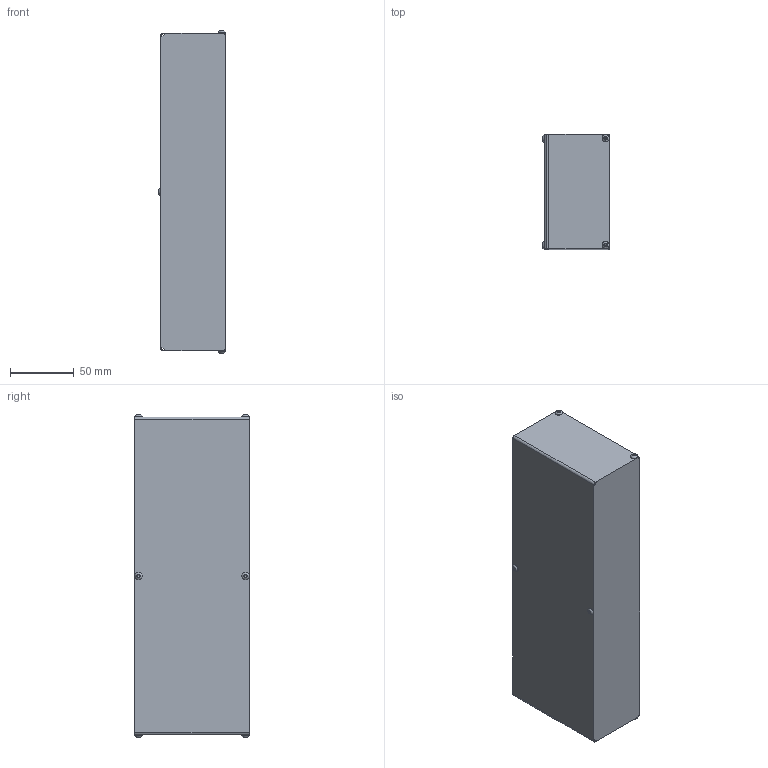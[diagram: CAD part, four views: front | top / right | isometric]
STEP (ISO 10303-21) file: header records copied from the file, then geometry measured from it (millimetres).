
FILE_DESCRIPTION(/* description */ (''),/* implementation_level */ '2;1');
FILE_NAME(/* name */ 'X:\VIRI ZA WEB\CAD DATOTEKE\LINEARNE ENOTE UNIMOTION\DODATNA OPREMA ZA LINEARNE ENOTE\STRANSKI POGONI\CTV-MTV\CTV 110-MTV 65\MSD CTV 110 T2 1,5 80 X 80\izvoz\CAD_71384.stp',/* time_stamp */ '2016-06-06T10:02:26+02:00',/* author */ ('Hypex'),/* organization */ ('Hypex'),/* preprocessor_version */ 'ST-DEVELOPER v16.1',/* originating_system */ 'Autodesk Inventor 2016',/* authorisation */ '');
FILE_SCHEMA (('AUTOMOTIVE_DESIGN { 1 0 10303 214 3 1 1 }'));
Length unit declared in the file: millimetre
Products named in the file (1): CAD_71384
Bounding box: 52.65 x 90 x 253.3 mm (x, y, z)
Volume: 1122271.2 mm3; surface area: 84324.7 mm2
Topology: 1 solids, 13 shells, 194 faces, 464 edges, 307 vertices
Faces by surface type: plane 113, cylinder 49, cone 20, bspline 6, torus 6
Full cylindrical faces by diameter (mm): 2.459 x4, 3 x6, 4 x6, 5.7 x6, 6.2 x8, 25 x1
Entity records: 5351 total; most frequent: CARTESIAN_POINT 1077, DIRECTION 838, ORIENTED_EDGE 744, EDGE_CURVE 372, AXIS2_PLACEMENT_3D 319, EDGE_LOOP 276, VERTEX_POINT 270, LINE 200
